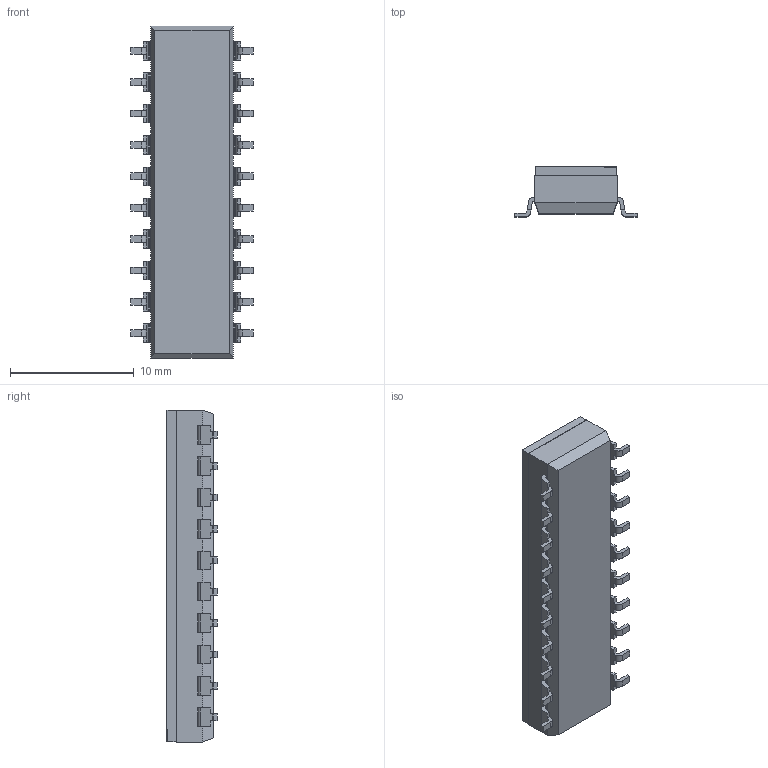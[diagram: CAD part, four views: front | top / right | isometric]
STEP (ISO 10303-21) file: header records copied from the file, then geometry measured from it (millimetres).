
FILE_DESCRIPTION (( 'STEP AP203' ), '1' );
FILE_NAME ('219-10LPST.STEP', '2019-05-24T06:46:02', ( '' ), ( '' ), 'SwSTEP 2.0', 'SolidWorks 2019', '' );
FILE_SCHEMA (( 'CONFIG_CONTROL_DESIGN' ));
Length unit declared in the file: millimetre
Products named in the file (4): 219-02-010; 219-40-010; 219-56-001; 219-10LPST
Assembly tree (12 placements, depth 2):
  219-10LPST
    219-02-010
    219-40-010
    219-56-001  x10
Bounding box: 9.91 x 4.05 x 26.88 mm (x, y, z)
Volume: 549.4 mm3; surface area: 1607.2 mm2
Topology: 12 solids, 12 shells, 1239 faces, 3333 edges, 2154 vertices
Faces by surface type: plane 759, bspline 240, cylinder 200, sphere 40
Entity records: 42859 total; most frequent: CARTESIAN_POINT 19130, ORIENTED_EDGE 5290, DIRECTION 3819, EDGE_CURVE 2645, LINE 1981, VECTOR 1981, VERTEX_POINT 1758, EDGE_LOOP 1047
